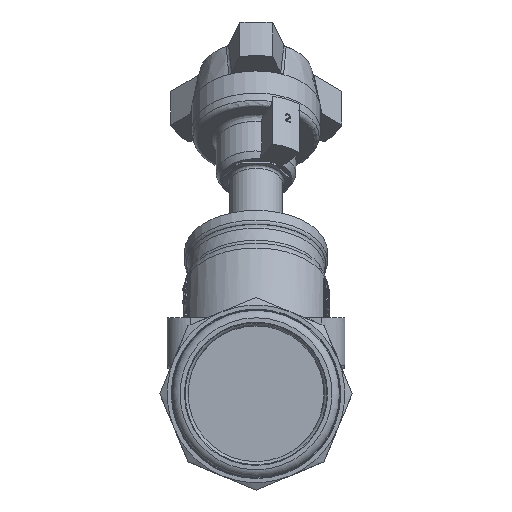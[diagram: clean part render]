
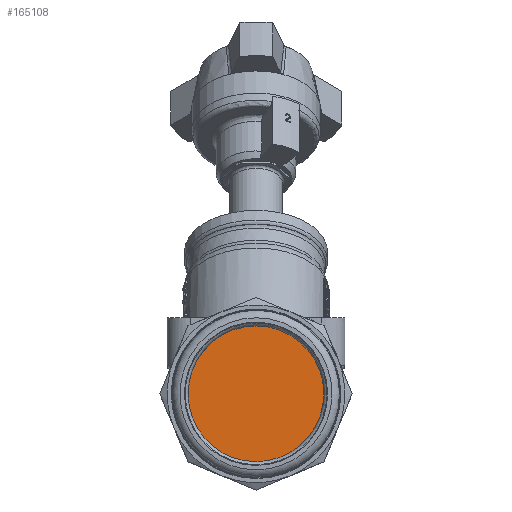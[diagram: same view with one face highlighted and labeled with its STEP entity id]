
A CAD part, left-side view. The second image highlights one B-rep face of the part: STEP entity #165108.
In plain terms, the highlighted planar face has unit normal (-1, 0, 0).
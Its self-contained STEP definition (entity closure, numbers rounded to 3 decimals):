
#165092=CARTESIAN_POINT('',(-152.,-0.024,13.287));
#165093=DIRECTION('',(-1.0,0.0,0.0));
#165094=DIRECTION('',(0.0,-1.,-0.002));
#165095=AXIS2_PLACEMENT_3D('',#165092,#165093,#165094);
#165096=PLANE('',#165095);
#165097=CARTESIAN_POINT('',(-152.,-0.047,26.575));
#165098=VERTEX_POINT('',#165097);
#165099=CARTESIAN_POINT('',(-152.,0.,0.));
#165100=DIRECTION('',(-1.0,0.,0.));
#165101=DIRECTION('',(0.,-0.002,1.));
#165102=AXIS2_PLACEMENT_3D('',#165099,#165100,#165101);
#165103=CIRCLE('',#165102,26.575);
#165104=EDGE_CURVE('',#165098,#165098,#165103,.T.);
#165105=ORIENTED_EDGE('',*,*,#165104,.T.);
#165106=EDGE_LOOP('',(#165105));
#165107=FACE_OUTER_BOUND('',#165106,.T.);
#165108=ADVANCED_FACE('',(#165107),#165096,.T.);
